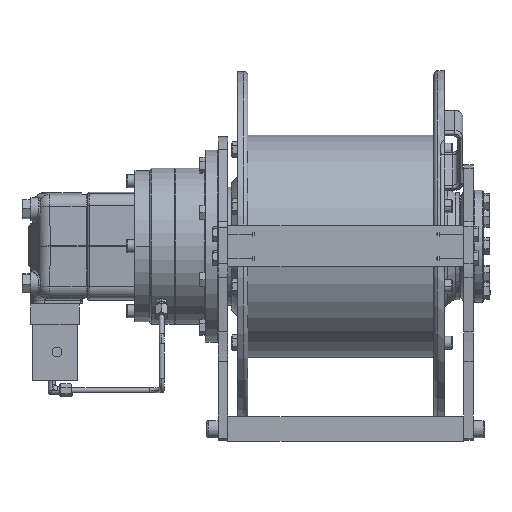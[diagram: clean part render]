
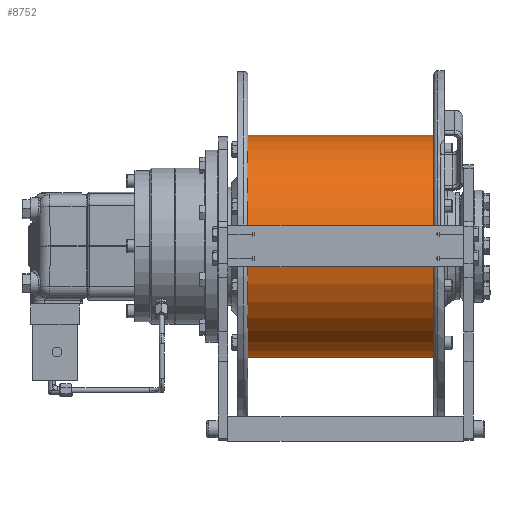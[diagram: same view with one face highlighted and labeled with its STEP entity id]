
A CAD part, front view. The second image highlights one B-rep face of the part: STEP entity #8752.
In plain terms, the highlighted cylindrical face has radius 136.5 mm (diameter 273 mm), a partial arc.
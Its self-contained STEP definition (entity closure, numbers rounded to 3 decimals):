
#8416=CARTESIAN_POINT('',(36.499,0.,0.));
#8417=DIRECTION('',(-1.,0.,0.));
#8418=DIRECTION('',(0.,0.,-1.));
#8419=AXIS2_PLACEMENT_3D('',#8416,#8417,#8418);
#8463=DIRECTION('',(1.,0.,0.));
#8464=VECTOR('',#8463,229.);
#8465=CARTESIAN_POINT('',(36.499,0.,
136.5));
#8466=LINE('',#8465,#8464);
#8467=DIRECTION('',(1.,0.,0.));
#8468=VECTOR('',#8467,229.);
#8469=CARTESIAN_POINT('',(36.499,0.,
-136.5));
#8470=LINE('',#8469,#8468);
#8471=CARTESIAN_POINT('',(265.499,0.,0.));
#8472=DIRECTION('',(1.,0.,0.));
#8473=DIRECTION('',(0.,0.,1.));
#8474=AXIS2_PLACEMENT_3D('',#8471,#8472,#8473);
#8485=CARTESIAN_POINT('',(265.499,0.,
-136.5));
#8486=CARTESIAN_POINT('',(265.499,0.,
136.5));
#8487=VERTEX_POINT('',#8485);
#8488=VERTEX_POINT('',#8486);
#8505=CARTESIAN_POINT('',(36.499,0.,
136.5));
#8506=VERTEX_POINT('',#8505);
#8507=CARTESIAN_POINT('',(36.499,0.,-136.5));
#8508=VERTEX_POINT('',#8507);
#8740=CARTESIAN_POINT('',(150.999,0.,0.));
#8741=DIRECTION('',(-1.,0.,0.));
#8742=DIRECTION('',(0.,0.,-1.));
#8743=AXIS2_PLACEMENT_3D('',#8740,#8741,#8742);
#8744=CYLINDRICAL_SURFACE('',#8743,136.5);
#8746=ORIENTED_EDGE('',*,*,#8745,.T.);
#8747=ORIENTED_EDGE('',*,*,#8730,.F.);
#8748=ORIENTED_EDGE('',*,*,#8668,.T.);
#8749=ORIENTED_EDGE('',*,*,#8734,.T.);
#8750=EDGE_LOOP('',(#8746,#8747,#8748,#8749));
#8751=FACE_OUTER_BOUND('',#8750,.F.);
#8752=ADVANCED_FACE('',(#8751),#8744,.T.);
#8420=CIRCLE('',#8419,136.5);
#8475=CIRCLE('',#8474,136.5);
#8668=EDGE_CURVE('',#8508,#8506,#8420,.T.);
#8730=EDGE_CURVE('',#8508,#8487,#8470,.T.);
#8734=EDGE_CURVE('',#8506,#8488,#8466,.T.);
#8745=EDGE_CURVE('',#8488,#8487,#8475,.T.);
